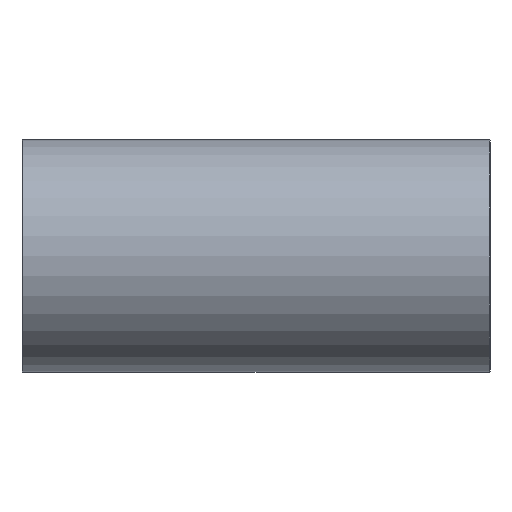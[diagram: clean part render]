
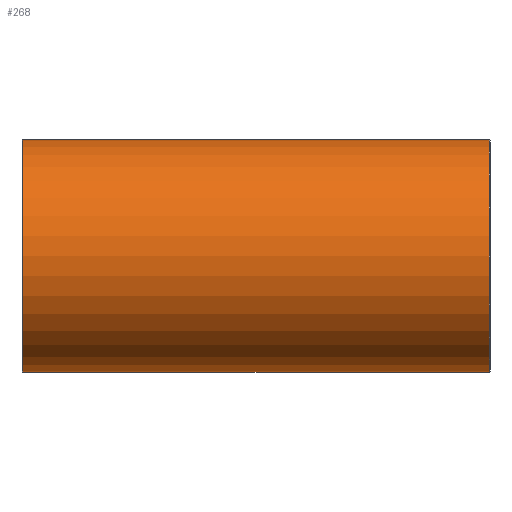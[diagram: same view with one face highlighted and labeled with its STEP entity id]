
A CAD part, front view. The second image highlights one B-rep face of the part: STEP entity #268.
In plain terms, the highlighted cylindrical face has radius 30.6 mm (diameter 61.2 mm), a full revolution.
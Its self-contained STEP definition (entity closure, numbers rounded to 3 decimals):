
#121=CARTESIAN_POINT('',(0.0,0.0,30.6));
#122=VERTEX_POINT('',#121);
#123=CARTESIAN_POINT('',(0.0,0.0,-30.6));
#124=VERTEX_POINT('',#123);
#221=CARTESIAN_POINT('',(-61.3,30.6,0.));
#222=VERTEX_POINT('',#221);
#223=CARTESIAN_POINT('',(-61.3,0.0,0.0));
#224=DIRECTION('',(-1.0,0.0,0.0));
#225=DIRECTION('',(0.0,-1.0,0.0));
#226=AXIS2_PLACEMENT_3D('',#223,#224,#225);
#227=CIRCLE('',#226,30.6);
#228=EDGE_CURVE('',#222,#222,#227,.T.);
#233=CARTESIAN_POINT('',(0.,0.0,0.0));
#234=DIRECTION('',(1.0,0.0,0.0));
#235=DIRECTION('',(0.0,1.0,0.0));
#236=AXIS2_PLACEMENT_3D('',#233,#234,#235);
#237=CYLINDRICAL_SURFACE('',#236,30.6);
#238=CARTESIAN_POINT('',(61.3,30.6,0.));
#239=VERTEX_POINT('',#238);
#240=CARTESIAN_POINT('',(61.3,0.0,0.0));
#241=DIRECTION('',(1.0,0.0,0.0));
#242=DIRECTION('',(0.0,-1.0,0.0));
#243=AXIS2_PLACEMENT_3D('',#240,#241,#242);
#244=CIRCLE('',#243,30.6);
#245=EDGE_CURVE('',#239,#239,#244,.T.);
#246=ORIENTED_EDGE('',*,*,#245,.F.);
#247=EDGE_LOOP('',(#246));
#248=FACE_OUTER_BOUND('',#247,.T.);
#249=CARTESIAN_POINT('',(0.0,0.0,0.0));
#250=DIRECTION('',(-0.641,0.767,0.0));
#251=DIRECTION('',(0.767,0.641,0.0));
#252=AXIS2_PLACEMENT_3D('',#249,#250,#251);
#253=ELLIPSE('',#252,47.707,30.6);
#254=EDGE_CURVE('',#122,#124,#253,.T.);
#255=ORIENTED_EDGE('',*,*,#254,.F.);
#256=CARTESIAN_POINT('',(0.0,0.0,0.0));
#257=DIRECTION('',(0.641,0.767,0.0));
#258=DIRECTION('',(-0.767,0.641,0.0));
#259=AXIS2_PLACEMENT_3D('',#256,#257,#258);
#260=ELLIPSE('',#259,47.707,30.6);
#261=EDGE_CURVE('',#124,#122,#260,.T.);
#262=ORIENTED_EDGE('',*,*,#261,.F.);
#263=EDGE_LOOP('',(#255,#262));
#264=FACE_BOUND('',#263,.T.);
#265=ORIENTED_EDGE('',*,*,#228,.F.);
#266=EDGE_LOOP('',(#265));
#267=FACE_BOUND('',#266,.T.);
#268=ADVANCED_FACE('',(#248,#264,#267),#237,.T.);
